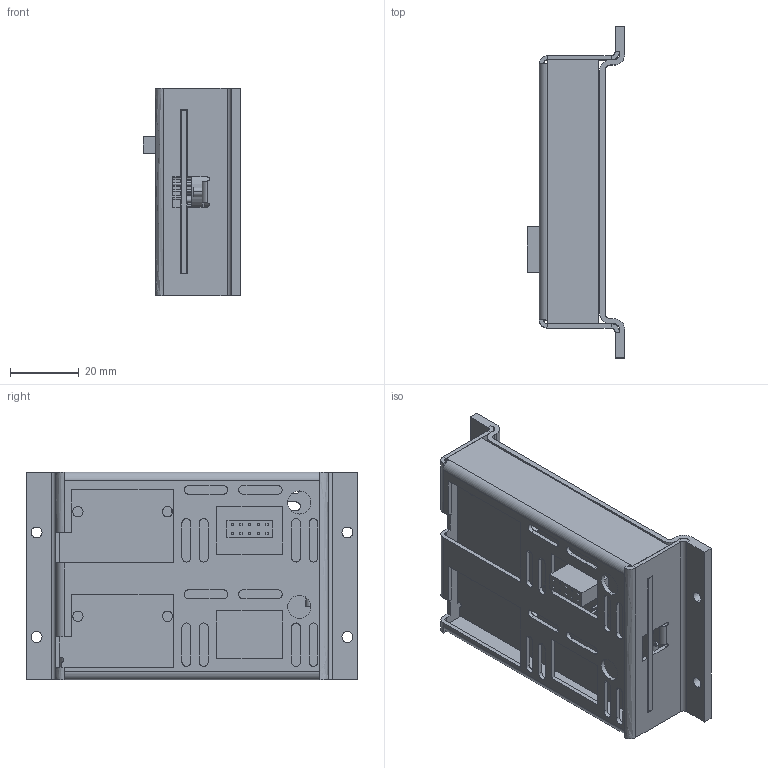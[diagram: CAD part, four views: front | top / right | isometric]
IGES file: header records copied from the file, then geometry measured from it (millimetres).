
Start section:  PTC IGES file: cu_scxi-1357_2-slot.igs
Global section: file name: cu_scxi-1357_2-slot.igs; native system: Pro/ENGINEER by Parametric Technology Corporation; preprocessor: 2010230; author: jjorden; organization: Unknown; date: 20110816.110026; units: inch
Bounding box: 28.37 x 96.77 x 60.67 mm (x, y, z)
Surface area: 39625.1 mm2 (no closed solid volume)
Topology: 0 solids, 0 shells, 686 faces, 3562 edges, 3542 vertices
Faces by surface type: bspline 411, revolution 275
